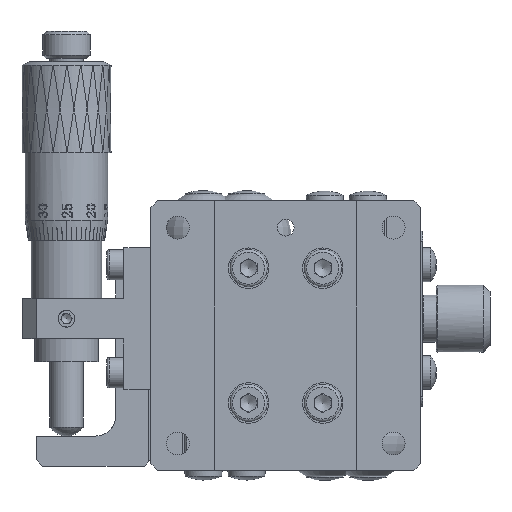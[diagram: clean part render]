
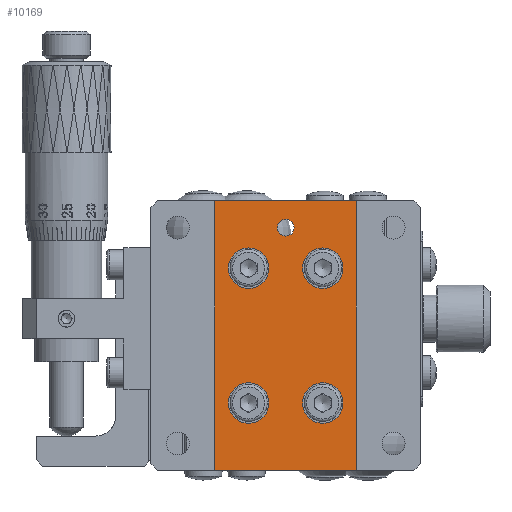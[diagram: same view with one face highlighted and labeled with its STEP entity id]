
A CAD part, front view. The second image highlights one B-rep face of the part: STEP entity #10169.
In plain terms, the highlighted planar face has unit normal (0, -1, 0).
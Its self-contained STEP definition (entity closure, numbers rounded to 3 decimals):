
#423 = ORIENTED_EDGE ( 'NONE', *, *, #68183, .T. ) ;
#468 = EDGE_LOOP ( 'NONE', ( #12927, #70733, #23786, #423 ) ) ;
#594 = CARTESIAN_POINT ( 'NONE',  ( 9.5, 0.5, 0. ) ) ;
#1202 = AXIS2_PLACEMENT_3D ( 'NONE', #46173, #35885, #69674 ) ;
#1276 = CARTESIAN_POINT ( 'NONE',  ( 25.5, 0.5, 13. ) ) ;
#1566 = VERTEX_POINT ( 'NONE', #7100 ) ;
#2285 = DIRECTION ( 'NONE',  ( 0., 1., 0. ) ) ;
#3681 = AXIS2_PLACEMENT_3D ( 'NONE', #18190, #30685, #19286 ) ;
#3820 = EDGE_CURVE ( 'NONE', #65163, #65163, #24505, .T. ) ;
#7100 = CARTESIAN_POINT ( 'NONE',  ( 30.5, 0.5, 0. ) ) ;
#7585 = DIRECTION ( 'NONE',  ( 0., 1., 0. ) ) ;
#9386 = ORIENTED_EDGE ( 'NONE', *, *, #54146, .T. ) ;
#9458 = CARTESIAN_POINT ( 'NONE',  ( 25.5, 0.5, 30. ) ) ;
#9912 = DIRECTION ( 'NONE',  ( -1., 0., 0. ) ) ;
#10169 = ADVANCED_FACE ( 'NONE', ( #46753, #18824, #34644, #13310, #41245, #63650 ), #52646, .F. ) ;
#12428 = DIRECTION ( 'NONE',  ( 0., 0., 1. ) ) ;
#12729 = EDGE_LOOP ( 'NONE', ( #64315 ) ) ;
#12927 = ORIENTED_EDGE ( 'NONE', *, *, #36987, .T. ) ;
#13310 = FACE_OUTER_BOUND ( 'NONE', #468, .T. ) ;
#14438 = EDGE_CURVE ( 'NONE', #32167, #51904, #68550, .T. ) ;
#14768 = DIRECTION ( 'NONE',  ( 0., 0., 1. ) ) ;
#14960 = DIRECTION ( 'NONE',  ( 0., -1., 0. ) ) ;
#15056 = CARTESIAN_POINT ( 'NONE',  ( 9.5, 0.5, 0. ) ) ;
#15998 = CARTESIAN_POINT ( 'NONE',  ( 20., 0.5, 37.25 ) ) ;
#16039 = EDGE_LOOP ( 'NONE', ( #24886 ) ) ;
#17474 = AXIS2_PLACEMENT_3D ( 'NONE', #9458, #14960, #70082 ) ;
#18190 = CARTESIAN_POINT ( 'NONE',  ( 14.5, 0.5, 30. ) ) ;
#18626 = AXIS2_PLACEMENT_3D ( 'NONE', #29131, #2285, #14768 ) ;
#18703 = EDGE_CURVE ( 'NONE', #67700, #67700, #63856, .T. ) ;
#18824 = FACE_BOUND ( 'NONE', #16039, .T. ) ;
#19286 = DIRECTION ( 'NONE',  ( 0., 0., 1. ) ) ;
#19844 = LINE ( 'NONE', #15056, #67349 ) ;
#20739 = CARTESIAN_POINT ( 'NONE',  ( 14.5, 0.5, 10. ) ) ;
#21142 = CIRCLE ( 'NONE', #1202, 3. ) ;
#21278 = VERTEX_POINT ( 'NONE', #25191 ) ;
#21987 = LINE ( 'NONE', #27863, #32977 ) ;
#23441 = CARTESIAN_POINT ( 'NONE',  ( 30.5, 0.5, 0. ) ) ;
#23786 = ORIENTED_EDGE ( 'NONE', *, *, #59452, .F. ) ;
#24505 = CIRCLE ( 'NONE', #17474, 3. ) ;
#24886 = ORIENTED_EDGE ( 'NONE', *, *, #18703, .F. ) ;
#25191 = CARTESIAN_POINT ( 'NONE',  ( 30.5, 0.5, 40. ) ) ;
#26069 = CARTESIAN_POINT ( 'NONE',  ( 9.5, 0.5, 40. ) ) ;
#27863 = CARTESIAN_POINT ( 'NONE',  ( 9.5, 0.5, 40. ) ) ;
#28748 = CARTESIAN_POINT ( 'NONE',  ( 14.5, 0.5, 33. ) ) ;
#29131 = CARTESIAN_POINT ( 'NONE',  ( 9.5, 0.5, 0. ) ) ;
#29927 = VERTEX_POINT ( 'NONE', #1276 ) ;
#30316 = EDGE_CURVE ( 'NONE', #40862, #40862, #38857, .T. ) ;
#30685 = DIRECTION ( 'NONE',  ( 0., -1., 0. ) ) ;
#31414 = DIRECTION ( 'NONE',  ( 0., -1., 0. ) ) ;
#32167 = VERTEX_POINT ( 'NONE', #38297 ) ;
#32977 = VECTOR ( 'NONE', #61285, 1000. ) ;
#33962 = ORIENTED_EDGE ( 'NONE', *, *, #3820, .F. ) ;
#34644 = FACE_BOUND ( 'NONE', #57639, .T. ) ;
#35885 = DIRECTION ( 'NONE',  ( 0., -1., 0. ) ) ;
#36065 = ORIENTED_EDGE ( 'NONE', *, *, #72391, .F. ) ;
#36891 = CARTESIAN_POINT ( 'NONE',  ( 25.5, 0.5, 33. ) ) ;
#36987 = EDGE_CURVE ( 'NONE', #21278, #51904, #21987, .T. ) ;
#38297 = CARTESIAN_POINT ( 'NONE',  ( 9.5, 0.5, 0. ) ) ;
#38857 = CIRCLE ( 'NONE', #3681, 3. ) ;
#40862 = VERTEX_POINT ( 'NONE', #28748 ) ;
#41154 = EDGE_LOOP ( 'NONE', ( #36065 ) ) ;
#41245 = FACE_BOUND ( 'NONE', #41154, .T. ) ;
#43340 = VECTOR ( 'NONE', #50952, 1000. ) ;
#43829 = CARTESIAN_POINT ( 'NONE',  ( 14.5, 0.5, 13. ) ) ;
#45788 = CIRCLE ( 'NONE', #55180, 1.25 ) ;
#46173 = CARTESIAN_POINT ( 'NONE',  ( 25.5, 0.5, 10. ) ) ;
#46753 = FACE_BOUND ( 'NONE', #52265, .T. ) ;
#47623 = CARTESIAN_POINT ( 'NONE',  ( 20., 0.5, 36. ) ) ;
#50952 = DIRECTION ( 'NONE',  ( 0., 0., 1. ) ) ;
#51018 = LINE ( 'NONE', #23441, #52388 ) ;
#51904 = VERTEX_POINT ( 'NONE', #26069 ) ;
#52265 = EDGE_LOOP ( 'NONE', ( #9386 ) ) ;
#52388 = VECTOR ( 'NONE', #12428, 1000. ) ;
#52646 = PLANE ( 'NONE',  #18626 ) ;
#53150 = DIRECTION ( 'NONE',  ( 0., 0., 1. ) ) ;
#53833 = DIRECTION ( 'NONE',  ( 0., 0., 1. ) ) ;
#54146 = EDGE_CURVE ( 'NONE', #66322, #66322, #45788, .T. ) ;
#55180 = AXIS2_PLACEMENT_3D ( 'NONE', #47623, #7585, #53150 ) ;
#57639 = EDGE_LOOP ( 'NONE', ( #33962 ) ) ;
#59452 = EDGE_CURVE ( 'NONE', #1566, #32167, #19844, .T. ) ;
#61285 = DIRECTION ( 'NONE',  ( -1., 0., 0. ) ) ;
#63650 = FACE_BOUND ( 'NONE', #12729, .T. ) ;
#63856 = CIRCLE ( 'NONE', #66197, 3. ) ;
#64315 = ORIENTED_EDGE ( 'NONE', *, *, #30316, .F. ) ;
#65163 = VERTEX_POINT ( 'NONE', #36891 ) ;
#66197 = AXIS2_PLACEMENT_3D ( 'NONE', #20739, #31414, #53833 ) ;
#66322 = VERTEX_POINT ( 'NONE', #15998 ) ;
#67349 = VECTOR ( 'NONE', #9912, 1000. ) ;
#67700 = VERTEX_POINT ( 'NONE', #43829 ) ;
#68183 = EDGE_CURVE ( 'NONE', #1566, #21278, #51018, .T. ) ;
#68550 = LINE ( 'NONE', #594, #43340 ) ;
#69674 = DIRECTION ( 'NONE',  ( 0., 0., 1. ) ) ;
#70082 = DIRECTION ( 'NONE',  ( 0., 0., 1. ) ) ;
#70733 = ORIENTED_EDGE ( 'NONE', *, *, #14438, .F. ) ;
#72391 = EDGE_CURVE ( 'NONE', #29927, #29927, #21142, .T. ) ;
